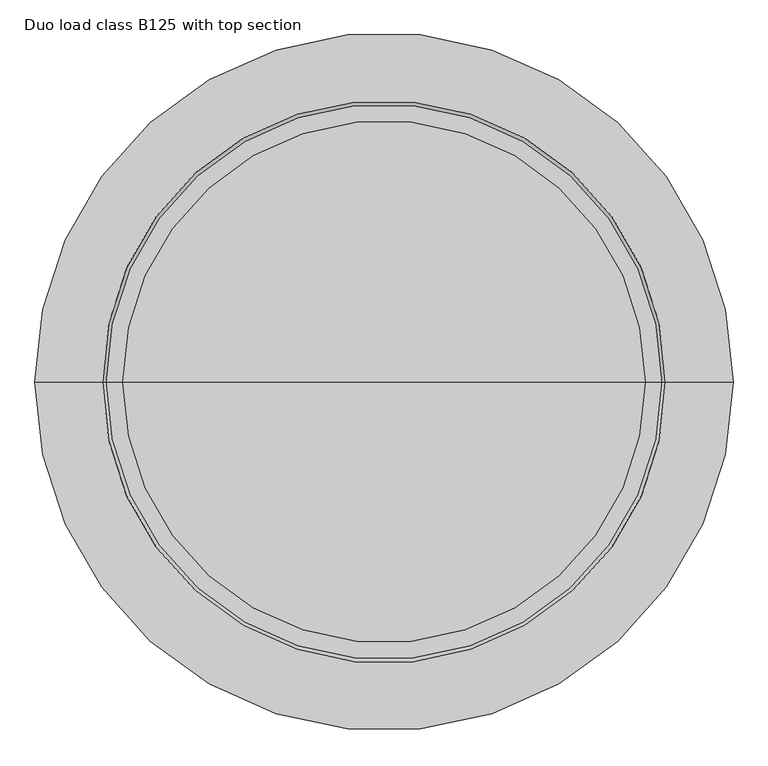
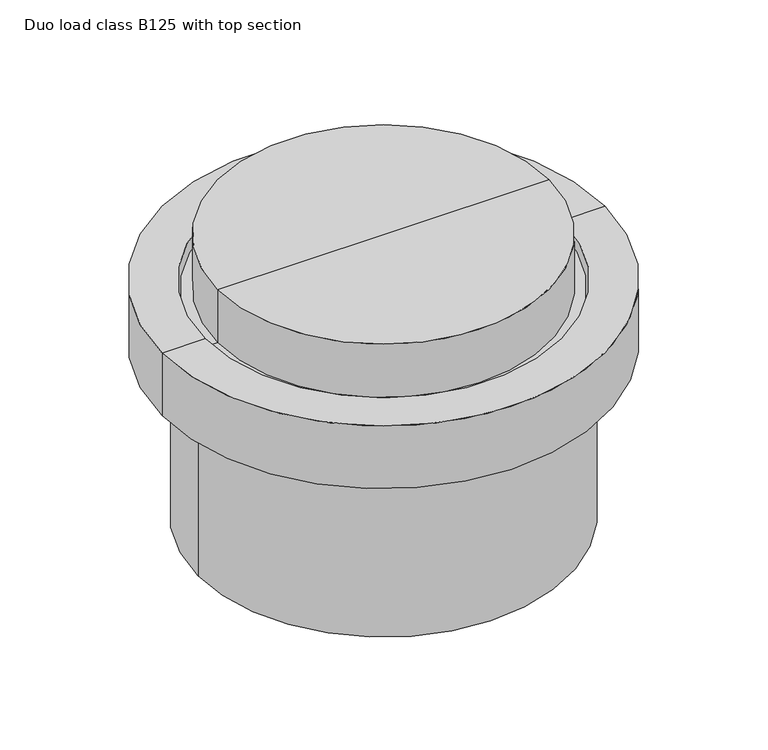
"""IFC4 building model written with IfcOpenShell, lengths in millimetres: unitary equipment geometry, ME_PE_UN_Powerlift-P_ACO : Duo load class B125 with top section."""

from ifc_helpers import new_model, si_unit, frame, origin, origin_with_axes, place, context, project, spatial, polyline, circle_curve, source, transform, mapped, element, save
from ifc_brep_helpers import plane_surface, cylinder_surface, revolved_surface, advanced_brep


def duo_load_class_b125_with_top_section_3a2dbb17(model_context):
    return source(origin(), model_context, "Body", "AdvancedBrep", [
        advanced_brep(
        [(0.0, 0.0, -127.872), (398.6285742, 0.0, -127.872), (-398.6285742, 0.0, -127.872), (-501.0260742, 0.0, -257.742), (501.0260742, 0.0, -257.742), (0.0, 0.0, -257.742), (-501.0260742, 0.0, -107.892), (501.0260742, 0.0, -107.892), (-403.982199, 0.0, -107.892), (403.982199, 0.0, -107.892)],
        [
            (0, 1),
            (1, 2, circle_curve(frame((0.0, 0.0, -127.872), z_axis=(0.0, 0.0, 1.0), x_axis=(1.0, 0.0, 0.0)), 398.6285742)),
            (2, 0),
            (2, 1, circle_curve(frame((0.0, 0.0, -127.872), z_axis=(0.0, 0.0, 1.0), x_axis=(1.0, 0.0, 0.0)), 398.6285742)),
            (3, 4, circle_curve(frame((0.0, 0.0, -257.742), z_axis=(0.0, 0.0, -1.0), x_axis=(1.0, 0.0, 0.0)), 501.0260742)),
            (4, 5),
            (5, 3),
            (4, 3, circle_curve(frame((0.0, 0.0, -257.742), z_axis=(0.0, 0.0, -1.0), x_axis=(1.0, 0.0, 0.0)), 501.0260742)),
            (6, 7, circle_curve(frame((0.0, 0.0, -107.892), z_axis=(0.0, 0.0, -1.0), x_axis=(1.0, 0.0, 0.0)), 501.0260742)),
            (7, 4),
            (3, 6),
            (7, 6, circle_curve(frame((0.0, 0.0, -107.892), z_axis=(0.0, 0.0, -1.0), x_axis=(1.0, 0.0, 0.0)), 501.0260742)),
            (8, 9, circle_curve(frame((0.0, 0.0, -107.892), z_axis=(0.0, 0.0, -1.0), x_axis=(1.0, 0.0, 0.0)), 403.982199)),
            (9, 7),
            (6, 8),
            (9, 8, circle_curve(frame((0.0, 0.0, -107.892), z_axis=(0.0, 0.0, -1.0), x_axis=(1.0, 0.0, 0.0)), 403.982199)),
            (1, 9),
            (8, 2),
        ],
        [
            plane_surface(frame((0.0, 0.0, -127.872), z_axis=(0.0, 0.0, 1.0), x_axis=(1.0, 0.0, 0.0))),
            plane_surface(frame((0.0, 0.0, -257.742), z_axis=(0.0, 0.0, -1.0), x_axis=(1.0, 0.0, 0.0))),
            cylinder_surface(frame((0.0, 0.0, 33.5611492), z_axis=(0.0, 0.0, 1.0), x_axis=(1.0, 0.0, 0.0)), 501.0260742),
            plane_surface(frame((0.0, 0.0, -107.892), z_axis=(0.0, 0.0, 1.0), x_axis=(1.0, 0.0, 0.0))),
            revolved_surface(polyline([(403.982199, 0.0, -107.892), (398.6285742, 0.0, -127.872)]), (0.0, 0.0, 33.5611492), (0.0, 0.0, 1.0)),
        ],
        [
            (0, [[1, 2, 3]]),
            (0, [[-3, 4, -1]]),
            (1, [[5, 6, 7]]),
            (1, [[8, -7, -6]]),
            (2, [[9, 10, -5, 11]]),
            (2, [[12, -11, -8, -10]]),
            (3, [[13, 14, -9, 15]]),
            (3, [[16, -15, -12, -14]]),
            (4, [[-2, 17, -13, 18]]),
            (4, [[-4, -18, -16, -17]]),
        ],
    ),
        advanced_brep(
        [(0.0, 0.0, 0.0), (374.7842156, 0.0, 0.0), (-374.7842156, 0.0, 0.0), (-374.7842156, 0.0, -127.872), (374.7842156, 0.0, -127.872), (0.0, 0.0, -127.872)],
        [
            (0, 1),
            (1, 2, circle_curve(origin_with_axes(), 374.7842156)),
            (2, 0),
            (2, 1, circle_curve(origin_with_axes(), 374.7842156)),
            (3, 4, circle_curve(frame((0.0, 0.0, -127.872), z_axis=(0.0, 0.0, -1.0), x_axis=(1.0, 0.0, 0.0)), 374.7842156)),
            (4, 5),
            (5, 3),
            (4, 3, circle_curve(frame((0.0, 0.0, -127.872), z_axis=(0.0, 0.0, -1.0), x_axis=(1.0, 0.0, 0.0)), 374.7842156)),
            (1, 4),
            (3, 2),
        ],
        [
            plane_surface(origin_with_axes()),
            plane_surface(frame((0.0, 0.0, -127.872), z_axis=(0.0, 0.0, -1.0), x_axis=(1.0, 0.0, 0.0))),
            cylinder_surface(frame((0.0, 0.0, 60.0), z_axis=(0.0, 0.0, 1.0), x_axis=(1.0, 0.0, 0.0)), 374.7842156),
        ],
        [
            (0, [[1, 2, 3]]),
            (0, [[-3, 4, -1]]),
            (1, [[5, 6, 7]]),
            (1, [[8, -7, -6]]),
            (2, [[-2, 9, -5, 10]]),
            (2, [[-4, -10, -8, -9]]),
        ],
    ),
        advanced_brep(
        [(-411.381351, 0.0, -670.0), (411.381351, 0.0, -670.0), (411.381351, 0.0, -257.742), (-411.381351, 0.0, -257.742), (-419.25, 0.0, -670.0), (419.25, 0.0, -670.0), (-419.25, 0.0, -257.742), (419.25, 0.0, -257.742)],
        [
            (0, 1, circle_curve(frame((0.0, 0.0, -670.0), z_axis=(0.0, 0.0, -1.0), x_axis=(1.0, 0.0, 0.0)), 411.381351)),
            (1, 2),
            (2, 3, circle_curve(frame((0.0, 0.0, -257.742), z_axis=(0.0, 0.0, 1.0), x_axis=(1.0, 0.0, 0.0)), 411.381351)),
            (3, 0),
            (1, 0, circle_curve(frame((0.0, 0.0, -670.0), z_axis=(0.0, 0.0, -1.0), x_axis=(1.0, 0.0, 0.0)), 411.381351)),
            (3, 2, circle_curve(frame((0.0, 0.0, -257.742), z_axis=(0.0, 0.0, 1.0), x_axis=(1.0, 0.0, 0.0)), 411.381351)),
            (4, 5, circle_curve(frame((0.0, 0.0, -670.0), z_axis=(0.0, 0.0, -1.0), x_axis=(1.0, 0.0, 0.0)), 419.25)),
            (5, 1),
            (0, 4),
            (5, 4, circle_curve(frame((0.0, 0.0, -670.0), z_axis=(0.0, 0.0, -1.0), x_axis=(1.0, 0.0, 0.0)), 419.25)),
            (6, 7, circle_curve(frame((0.0, 0.0, -257.742), z_axis=(0.0, 0.0, -1.0), x_axis=(1.0, 0.0, 0.0)), 419.25)),
            (7, 5),
            (4, 6),
            (7, 6, circle_curve(frame((0.0, 0.0, -257.742), z_axis=(0.0, 0.0, -1.0), x_axis=(1.0, 0.0, 0.0)), 419.25)),
            (2, 7),
            (6, 3),
        ],
        [
            revolved_surface(polyline([(411.381351, 0.0, -257.742), (411.381351, 0.0, -670.0)]), (0.0, 0.0, 258.9422649), (0.0, 0.0, 1.0)),
            plane_surface(frame((0.0, 0.0, -670.0), z_axis=(0.0, 0.0, -1.0), x_axis=(1.0, 0.0, 0.0))),
            cylinder_surface(frame((0.0, 0.0, 258.9422649), z_axis=(0.0, 0.0, 1.0), x_axis=(1.0, 0.0, 0.0)), 419.25),
            plane_surface(frame((0.0, 0.0, -257.742), z_axis=(0.0, 0.0, 1.0), x_axis=(1.0, 0.0, 0.0))),
        ],
        [
            (0, [[1, 2, 3, 4]]),
            (0, [[5, -4, 6, -2]]),
            (1, [[7, 8, -1, 9]]),
            (1, [[10, -9, -5, -8]]),
            (2, [[11, 12, -7, 13]]),
            (2, [[14, -13, -10, -12]]),
            (3, [[-3, 15, -11, 16]]),
            (3, [[-6, -16, -14, -15]]),
        ],
    ),
    ])


if __name__ == "__main__":
    model = new_model("IFC4")
    model_context = context("Model", 3, world=origin())
    ifc_project = project(units=[si_unit("LENGTHUNIT", "METRE", prefix="MILLI")], contexts=[model_context])
    site = spatial("IfcSite", under=ifc_project)
    building = spatial("IfcBuilding", under=site)
    placement = place(None, origin())
    duo_load_class_b125_with_top_section_shape = duo_load_class_b125_with_top_section_3a2dbb17(model_context)
    element("IfcUnitaryEquipment", 1, ObjectType="ME_PE_UN_Powerlift-P_ACO : Duo load class B125 with top section", at=placement, inside=building, context=model_context, shape_type="MappedRepresentation", body=[
        mapped(duo_load_class_b125_with_top_section_shape, transform((0.0, 0.0, 0.0), x_axis=(1.0, 0.0, 0.0), y_axis=(0.0, 1.0, 0.0), z_axis=(0.0, 0.0, 1.0))),
    ])
    save(model, "model.ifc")
